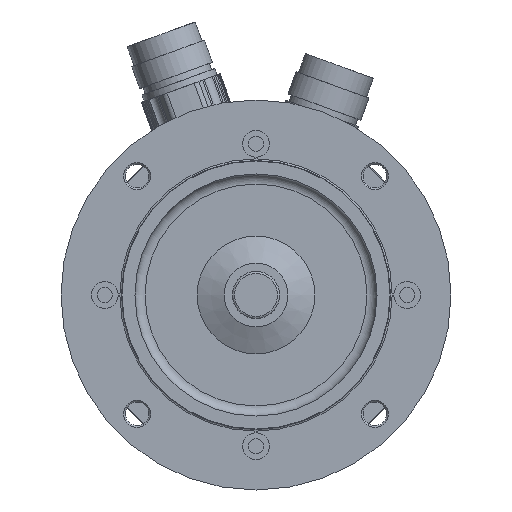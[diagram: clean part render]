
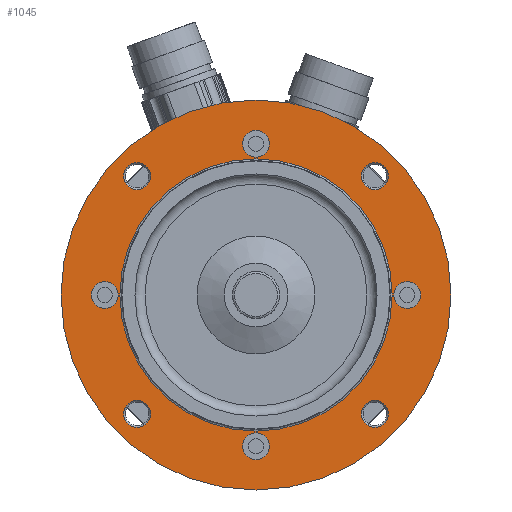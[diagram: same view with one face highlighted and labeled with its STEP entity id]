
A CAD part, front view. The second image highlights one B-rep face of the part: STEP entity #1045.
In plain terms, the highlighted planar face has unit normal (0, -1, 0).
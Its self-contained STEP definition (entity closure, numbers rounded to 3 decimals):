
#683=PLANE('',#5896);
#789=FACE_OUTER_BOUND('',#2153,.T.);
#1045=ADVANCED_FACE('',(#1656,#1657,#1658,#1659,#1660,#1661,#1662,#1663,
#1664,#789),#683,.T.);
#1656=FACE_BOUND('',#2144,.T.);
#1657=FACE_BOUND('',#2145,.T.);
#1658=FACE_BOUND('',#2146,.T.);
#1659=FACE_BOUND('',#2147,.T.);
#1660=FACE_BOUND('',#2148,.T.);
#1661=FACE_BOUND('',#2149,.T.);
#1662=FACE_BOUND('',#2150,.T.);
#1663=FACE_BOUND('',#2151,.T.);
#1664=FACE_BOUND('',#2152,.T.);
#2144=EDGE_LOOP('',(#2873));
#2145=EDGE_LOOP('',(#2874));
#2146=EDGE_LOOP('',(#2875));
#2147=EDGE_LOOP('',(#2876));
#2148=EDGE_LOOP('',(#2877));
#2149=EDGE_LOOP('',(#2878));
#2150=EDGE_LOOP('',(#2879));
#2151=EDGE_LOOP('',(#2880));
#2152=EDGE_LOOP('',(#2881));
#2153=EDGE_LOOP('',(#2882));
#2873=ORIENTED_EDGE('',*,*,#4731,.T.);
#2874=ORIENTED_EDGE('',*,*,#4732,.T.);
#2875=ORIENTED_EDGE('',*,*,#4733,.T.);
#2876=ORIENTED_EDGE('',*,*,#4734,.T.);
#2877=ORIENTED_EDGE('',*,*,#4735,.T.);
#2878=ORIENTED_EDGE('',*,*,#4736,.T.);
#2879=ORIENTED_EDGE('',*,*,#4737,.T.);
#2880=ORIENTED_EDGE('',*,*,#4738,.T.);
#2881=ORIENTED_EDGE('',*,*,#4739,.T.);
#2882=ORIENTED_EDGE('',*,*,#4740,.F.);
#4186=VERTEX_POINT('',#8752);
#4187=VERTEX_POINT('',#8754);
#4188=VERTEX_POINT('',#8756);
#4189=VERTEX_POINT('',#8758);
#4190=VERTEX_POINT('',#8760);
#4191=VERTEX_POINT('',#8762);
#4192=VERTEX_POINT('',#8764);
#4193=VERTEX_POINT('',#8766);
#4194=VERTEX_POINT('',#8768);
#4195=VERTEX_POINT('',#8770);
#4731=EDGE_CURVE('',#4186,#4186,#5388,.T.);
#4732=EDGE_CURVE('',#4187,#4187,#5389,.T.);
#4733=EDGE_CURVE('',#4188,#4188,#5390,.T.);
#4734=EDGE_CURVE('',#4189,#4189,#5391,.T.);
#4735=EDGE_CURVE('',#4190,#4190,#5392,.T.);
#4736=EDGE_CURVE('',#4191,#4191,#5393,.T.);
#4737=EDGE_CURVE('',#4192,#4192,#5394,.T.);
#4738=EDGE_CURVE('',#4193,#4193,#5395,.T.);
#4739=EDGE_CURVE('',#4194,#4194,#5396,.T.);
#4740=EDGE_CURVE('',#4195,#4195,#5397,.T.);
#5388=CIRCLE('',#5886,40.5);
#5389=CIRCLE('',#5887,4.);
#5390=CIRCLE('',#5888,4.);
#5391=CIRCLE('',#5889,4.);
#5392=CIRCLE('',#5890,4.);
#5393=CIRCLE('',#5891,4.);
#5394=CIRCLE('',#5892,4.);
#5395=CIRCLE('',#5893,4.);
#5396=CIRCLE('',#5894,4.);
#5397=CIRCLE('',#5895,58.);
#5886=AXIS2_PLACEMENT_3D('',#8751,#6804,#6805);
#5887=AXIS2_PLACEMENT_3D('',#8753,#6806,#6807);
#5888=AXIS2_PLACEMENT_3D('',#8755,#6808,#6809);
#5889=AXIS2_PLACEMENT_3D('',#8757,#6810,#6811);
#5890=AXIS2_PLACEMENT_3D('',#8759,#6812,#6813);
#5891=AXIS2_PLACEMENT_3D('',#8761,#6814,#6815);
#5892=AXIS2_PLACEMENT_3D('',#8763,#6816,#6817);
#5893=AXIS2_PLACEMENT_3D('',#8765,#6818,#6819);
#5894=AXIS2_PLACEMENT_3D('',#8767,#6820,#6821);
#5895=AXIS2_PLACEMENT_3D('',#8769,#6822,#6823);
#5896=AXIS2_PLACEMENT_3D('',#8771,#6824,#6825);
#6804=DIRECTION('',(0.,1.,0.));
#6805=DIRECTION('',(0.,0.,-1.));
#6806=DIRECTION('',(0.,1.,0.));
#6807=DIRECTION('',(-1.,0.,0.));
#6808=DIRECTION('',(0.,1.,0.));
#6809=DIRECTION('',(0.,0.,-1.));
#6810=DIRECTION('',(0.,1.,0.));
#6811=DIRECTION('',(1.,0.,0.));
#6812=DIRECTION('',(0.,1.,0.));
#6813=DIRECTION('',(0.,0.,1.));
#6814=DIRECTION('',(0.,1.,0.));
#6815=DIRECTION('',(0.,0.,-1.));
#6816=DIRECTION('',(0.,1.,0.));
#6817=DIRECTION('',(0.,0.,-1.));
#6818=DIRECTION('',(0.,1.,0.));
#6819=DIRECTION('',(0.,0.,-1.));
#6820=DIRECTION('',(0.,1.,0.));
#6821=DIRECTION('',(0.,0.,-1.));
#6822=DIRECTION('',(0.,1.,0.));
#6823=DIRECTION('',(0.,0.,1.));
#6824=DIRECTION('',(0.,-1.,0.));
#6825=DIRECTION('',(0.,0.,-1.));
#8751=CARTESIAN_POINT('',(0.,0.,0.));
#8752=CARTESIAN_POINT('',(0.,0.,-40.5));
#8753=CARTESIAN_POINT('',(-45.,0.,0.));
#8754=CARTESIAN_POINT('',(-49.,0.,0.));
#8755=CARTESIAN_POINT('',(0.,0.,-45.));
#8756=CARTESIAN_POINT('',(0.,0.,-49.));
#8757=CARTESIAN_POINT('',(45.,0.,0.));
#8758=CARTESIAN_POINT('',(49.,0.,0.));
#8759=CARTESIAN_POINT('',(0.,0.,45.));
#8760=CARTESIAN_POINT('',(0.,0.,49.));
#8761=CARTESIAN_POINT('',(35.355,0.,-35.355));
#8762=CARTESIAN_POINT('',(35.355,0.,-39.355));
#8763=CARTESIAN_POINT('',(35.355,0.,35.355));
#8764=CARTESIAN_POINT('',(35.355,0.,31.355));
#8765=CARTESIAN_POINT('',(-35.355,0.,35.355));
#8766=CARTESIAN_POINT('',(-35.355,0.,31.355));
#8767=CARTESIAN_POINT('',(-35.355,0.,-35.355));
#8768=CARTESIAN_POINT('',(-35.355,0.,-39.355));
#8769=CARTESIAN_POINT('',(0.,0.,0.));
#8770=CARTESIAN_POINT('',(0.,0.,58.));
#8771=CARTESIAN_POINT('',(0.,0.,0.));
